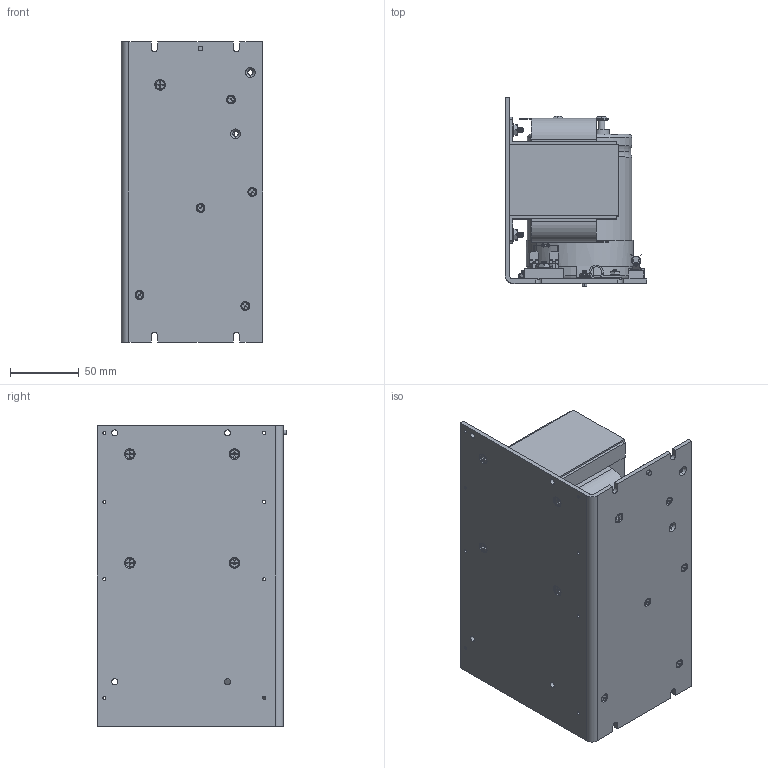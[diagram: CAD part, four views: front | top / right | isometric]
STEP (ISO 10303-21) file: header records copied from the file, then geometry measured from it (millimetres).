
FILE_DESCRIPTION((''),'2;1');
FILE_NAME('AMC_CAD_PS_PS300_ASM','2019-06-06T',('SYSTEM'),(''),'PRO/ENGINEER BY PARAMETRIC TECHNOLOGY CORPORATION, 2016360','PRO/ENGINEER BY PARAMETRIC TECHNOLOGY CORPORATION, 2016360','');
FILE_SCHEMA(('AUTOMOTIVE_DESIGN { 1 0 10303 214 1 1 1 1 }'));
Length unit declared in the file: inch
Products named in the file (48): N9-7-SOLID2; FH-2-SOLID7; FH-2-SOLID5; N2-3-SOLID1; FH-2-SOLID4; C1-2-SOLID1; N7-5-SOLID2; S6-2-SOLID1; N5-7-SOLID1; S14-2-SOLID1; FH-2-SOLID2; N1-2-SOLID1; S3-3-SOLID1; FUSE-2-SOLID1; S13-2-SOLID2; N3-4-SOLID1; S9-2-SOLID1; S12-3-SOLID1; T1-2-SOLID1; N10-8-SOLID2; BSPLT-2-SOLID1; N8-6-SOLID2; S2-4-SOLID1; FH-2-SOLID6; N7-5-SOLID1; N6-8-SOLID2; N9-7-SOLID1; S5-4-SOLID1; FH-2-SOLID3; R1-2-SOLID1; S10-3-SOLID1; S1-5-SOLID1; S7-5-SOLID1; S4-2-SOLID1; N11-3-SOLID1; N10-8-SOLID1; FH-2-SOLID1; DB1-2-SOLID1; N8-6-SOLID1; S8-4-SOLID1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
Assembly tree (47 placements, depth 3):
  AMC_CAD_PS_PS300_ASM
    ASM0001_ASM
      N9-7-SOLID2
      FH-2-SOLID7
      FH-2-SOLID5
      N2-3-SOLID1
      FH-2-SOLID4
      C1-2-SOLID1
      N7-5-SOLID2
      S6-2-SOLID1
      N5-7-SOLID1
      S14-2-SOLID1
      FH-2-SOLID2
      N1-2-SOLID1
      S3-3-SOLID1
      FUSE-2-SOLID1
      S13-2-SOLID2
      N3-4-SOLID1
      S9-2-SOLID1
      S12-3-SOLID1
      T1-2-SOLID1
      N10-8-SOLID2
      BSPLT-2-SOLID1
      N8-6-SOLID2
      S2-4-SOLID1
      FH-2-SOLID6
      N7-5-SOLID1
      N6-8-SOLID2
      N9-7-SOLID1
      S5-4-SOLID1
      FH-2-SOLID3
      R1-2-SOLID1
      S10-3-SOLID1
      S1-5-SOLID1
      S7-5-SOLID1
      S4-2-SOLID1
      N11-3-SOLID1
      N10-8-SOLID1
      FH-2-SOLID1
      DB1-2-SOLID1
      N8-6-SOLID1
      S8-4-SOLID1
      CLAMP-2-SOLID1
      S13-2-SOLID1
      S11-2-SOLID1
      N4-5-SOLID1
      BRKT1-2-SOLID1
      N6-8-SOLID1
Bounding box: 102.87 x 137.77 x 218.44 mm (x, y, z)
Volume: 1167120.5 mm3; surface area: 211473.7 mm2
Topology: 46 solids, 46 shells, 3514 faces, 9382 edges, 6018 vertices
Faces by surface type: plane 1244, cylinder 1154, cone 867, extrusion 115, torus 81, bspline 33, sphere 20
Entity records: 182547 total; most frequent: CARTESIAN_POINT 41812, DIRECTION 19341, ORIENTED_EDGE 18740, PRESENTATION_STYLE_ASSIGNMENT 12235, STYLED_ITEM 9416, CURVE_STYLE 9370, EDGE_CURVE 9370, AXIS2_PLACEMENT_3D 7180
